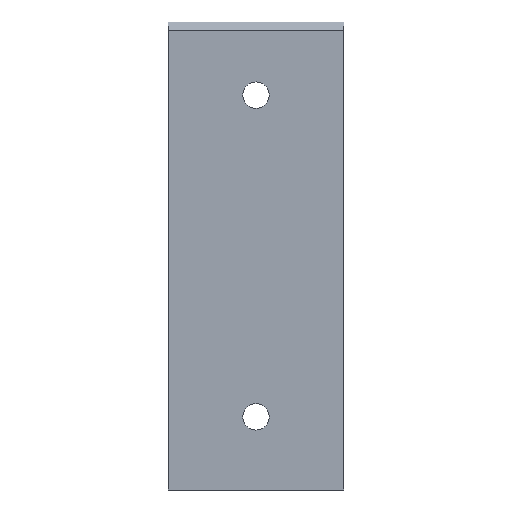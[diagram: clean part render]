
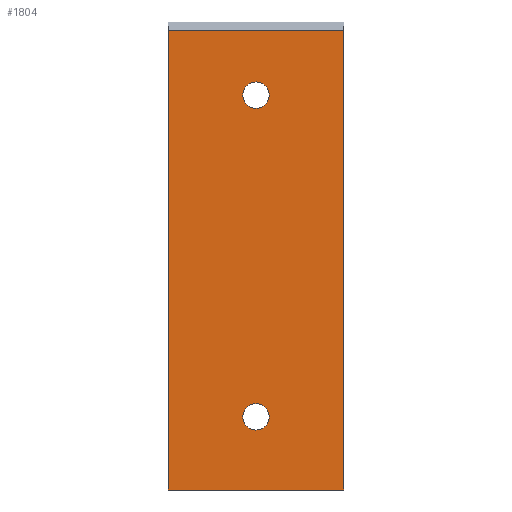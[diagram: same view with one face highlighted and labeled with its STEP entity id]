
A CAD part, front view. The second image highlights one B-rep face of the part: STEP entity #1804.
In plain terms, the highlighted planar face has unit normal (0, -1, 0).
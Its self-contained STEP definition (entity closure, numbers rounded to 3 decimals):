
#34 = DIRECTION ( 'NONE',  ( 0., -1., 0. ) ) ;
#38 = CARTESIAN_POINT ( 'NONE',  ( 25.5, 0., 135. ) ) ;
#56 = VERTEX_POINT ( 'NONE', #2813 ) ;
#74 = FACE_BOUND ( 'NONE', #4062, .T. ) ;
#196 = DIRECTION ( 'NONE',  ( 0., 0., -1. ) ) ;
#228 = CARTESIAN_POINT ( 'NONE',  ( 25.5, 0., 25. ) ) ;
#242 = AXIS2_PLACEMENT_3D ( 'NONE', #1761, #2486, #196 ) ;
#270 = EDGE_CURVE ( 'NONE', #685, #56, #4025, .T. ) ;
#422 = DIRECTION ( 'NONE',  ( 0., 0., -1. ) ) ;
#522 = DIRECTION ( 'NONE',  ( 1., 0., 0. ) ) ;
#685 = VERTEX_POINT ( 'NONE', #38 ) ;
#800 = VERTEX_POINT ( 'NONE', #4162 ) ;
#870 = CIRCLE ( 'NONE', #3114, 4.5 ) ;
#876 = EDGE_LOOP ( 'NONE', ( #1537, #4232, #2302, #2413 ) ) ;
#899 = VERTEX_POINT ( 'NONE', #1690 ) ;
#916 = DIRECTION ( 'NONE',  ( 0., -1., 0. ) ) ;
#1008 = AXIS2_PLACEMENT_3D ( 'NONE', #4616, #4514, #4564 ) ;
#1072 = FACE_OUTER_BOUND ( 'NONE', #876, .T. ) ;
#1076 = CARTESIAN_POINT ( 'NONE',  ( 30., 0., 25. ) ) ;
#1095 = DIRECTION ( 'NONE',  ( 0., -1., 0. ) ) ;
#1101 = LINE ( 'NONE', #4175, #3780 ) ;
#1111 = AXIS2_PLACEMENT_3D ( 'NONE', #1076, #1095, #1113 ) ;
#1113 = DIRECTION ( 'NONE',  ( 1., 0., 0. ) ) ;
#1123 = CIRCLE ( 'NONE', #3495, 4.5 ) ;
#1224 = LINE ( 'NONE', #3167, #4038 ) ;
#1267 = VERTEX_POINT ( 'NONE', #228 ) ;
#1312 = ORIENTED_EDGE ( 'NONE', *, *, #2396, .F. ) ;
#1343 = EDGE_CURVE ( 'NONE', #800, #1267, #2873, .T. ) ;
#1482 = ORIENTED_EDGE ( 'NONE', *, *, #270, .F. ) ;
#1537 = ORIENTED_EDGE ( 'NONE', *, *, #2435, .T. ) ;
#1690 = CARTESIAN_POINT ( 'NONE',  ( 60., 0., 157. ) ) ;
#1761 = CARTESIAN_POINT ( 'NONE',  ( 0., 0., 160. ) ) ;
#1804 = ADVANCED_FACE ( 'NONE', ( #1072, #2043, #74 ), #4358, .T. ) ;
#1987 = LINE ( 'NONE', #2996, #3933 ) ;
#2043 = FACE_BOUND ( 'NONE', #4624, .T. ) ;
#2062 = EDGE_CURVE ( 'NONE', #899, #3666, #2614, .T. ) ;
#2259 = CARTESIAN_POINT ( 'NONE',  ( 30., 0., 25. ) ) ;
#2302 = ORIENTED_EDGE ( 'NONE', *, *, #2062, .F. ) ;
#2396 = EDGE_CURVE ( 'NONE', #1267, #800, #1123, .T. ) ;
#2413 = ORIENTED_EDGE ( 'NONE', *, *, #3895, .F. ) ;
#2435 = EDGE_CURVE ( 'NONE', #4705, #3891, #1987, .T. ) ;
#2486 = DIRECTION ( 'NONE',  ( 0., -1., 0. ) ) ;
#2589 = ORIENTED_EDGE ( 'NONE', *, *, #3904, .F. ) ;
#2590 = CARTESIAN_POINT ( 'NONE',  ( 60., 0., 0. ) ) ;
#2614 = LINE ( 'NONE', #3236, #4638 ) ;
#2617 = DIRECTION ( 'NONE',  ( 1., 0., 0. ) ) ;
#2813 = CARTESIAN_POINT ( 'NONE',  ( 34.5, 0., 135. ) ) ;
#2873 = CIRCLE ( 'NONE', #1111, 4.5 ) ;
#2996 = CARTESIAN_POINT ( 'NONE',  ( 0., 0., 78.5 ) ) ;
#3039 = EDGE_CURVE ( 'NONE', #3891, #3666, #1224, .T. ) ;
#3068 = CARTESIAN_POINT ( 'NONE',  ( 0., 0., 0. ) ) ;
#3110 = CARTESIAN_POINT ( 'NONE',  ( 30., 0., 135. ) ) ;
#3114 = AXIS2_PLACEMENT_3D ( 'NONE', #3110, #916, #3463 ) ;
#3167 = CARTESIAN_POINT ( 'NONE',  ( 30., 0., 0. ) ) ;
#3236 = CARTESIAN_POINT ( 'NONE',  ( 60., 0., 78.5 ) ) ;
#3249 = DIRECTION ( 'NONE',  ( 0., 0., -1. ) ) ;
#3463 = DIRECTION ( 'NONE',  ( 1., 0., 0. ) ) ;
#3495 = AXIS2_PLACEMENT_3D ( 'NONE', #2259, #34, #2617 ) ;
#3666 = VERTEX_POINT ( 'NONE', #2590 ) ;
#3671 = ORIENTED_EDGE ( 'NONE', *, *, #1343, .F. ) ;
#3713 = CARTESIAN_POINT ( 'NONE',  ( 0., 0., 157. ) ) ;
#3780 = VECTOR ( 'NONE', #522, 1000. ) ;
#3865 = DIRECTION ( 'NONE',  ( 1., 0., 0. ) ) ;
#3891 = VERTEX_POINT ( 'NONE', #3068 ) ;
#3895 = EDGE_CURVE ( 'NONE', #4705, #899, #1101, .T. ) ;
#3904 = EDGE_CURVE ( 'NONE', #56, #685, #870, .T. ) ;
#3933 = VECTOR ( 'NONE', #422, 1000. ) ;
#4025 = CIRCLE ( 'NONE', #1008, 4.5 ) ;
#4038 = VECTOR ( 'NONE', #3865, 1000. ) ;
#4062 = EDGE_LOOP ( 'NONE', ( #2589, #1482 ) ) ;
#4162 = CARTESIAN_POINT ( 'NONE',  ( 34.5, 0., 25. ) ) ;
#4175 = CARTESIAN_POINT ( 'NONE',  ( 30., 0., 157. ) ) ;
#4232 = ORIENTED_EDGE ( 'NONE', *, *, #3039, .T. ) ;
#4358 = PLANE ( 'NONE',  #242 ) ;
#4514 = DIRECTION ( 'NONE',  ( 0., -1., 0. ) ) ;
#4564 = DIRECTION ( 'NONE',  ( 1., 0., 0. ) ) ;
#4616 = CARTESIAN_POINT ( 'NONE',  ( 30., 0., 135. ) ) ;
#4624 = EDGE_LOOP ( 'NONE', ( #1312, #3671 ) ) ;
#4638 = VECTOR ( 'NONE', #3249, 1000. ) ;
#4705 = VERTEX_POINT ( 'NONE', #3713 ) ;
